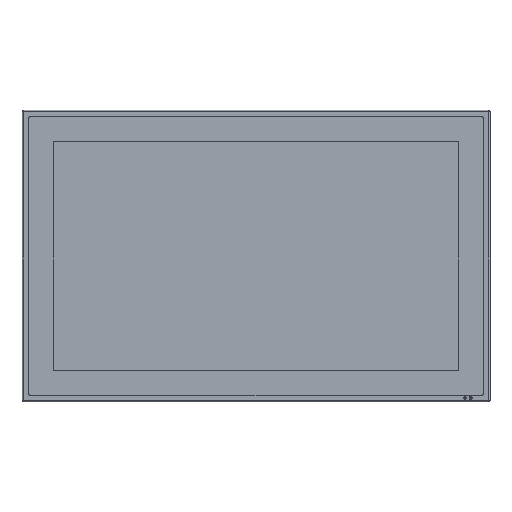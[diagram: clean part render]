
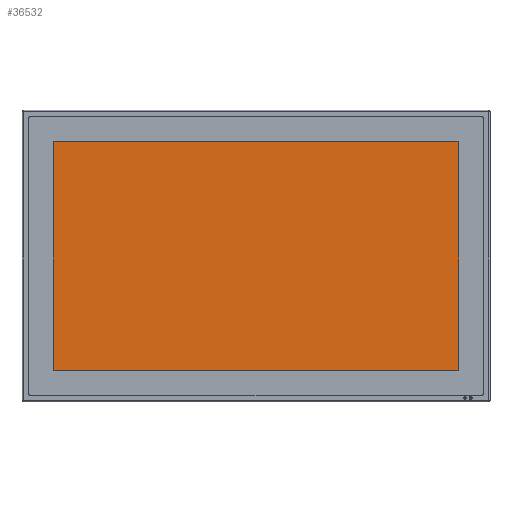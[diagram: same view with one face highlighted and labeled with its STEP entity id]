
A CAD part, top view. The second image highlights one B-rep face of the part: STEP entity #36532.
In plain terms, the highlighted planar face has unit normal (0, 0, 1).
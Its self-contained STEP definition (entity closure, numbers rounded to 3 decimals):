
#7862 = DIRECTION ( 'NONE',  ( 1., 0., 0. ) ) ;
#8792 = DIRECTION ( 'NONE',  ( 1., 0., 0. ) ) ;
#12174 = CARTESIAN_POINT ( 'NONE',  ( 172.716, 97.395, 0. ) ) ;
#19480 = FACE_OUTER_BOUND ( 'NONE', #187235, .T. ) ;
#34112 = ORIENTED_EDGE ( 'NONE', *, *, #213595, .T. ) ;
#36532 = ADVANCED_FACE ( 'NONE', ( #19480 ), #128087, .T. ) ;
#59048 = VECTOR ( 'NONE', #7862, 1000. ) ;
#65347 = AXIS2_PLACEMENT_3D ( 'NONE', #273650, #177759, #8792 ) ;
#78137 = EDGE_CURVE ( 'NONE', #109178, #124068, #295355, .T. ) ;
#79519 = CARTESIAN_POINT ( 'NONE',  ( -172.716, -97.395, 0. ) ) ;
#86041 = ORIENTED_EDGE ( 'NONE', *, *, #148844, .T. ) ;
#94452 = EDGE_CURVE ( 'NONE', #234353, #122185, #157325, .T. ) ;
#104674 = CARTESIAN_POINT ( 'NONE',  ( -172.716, 97.395, 0. ) ) ;
#109178 = VERTEX_POINT ( 'NONE', #136188 ) ;
#122185 = VERTEX_POINT ( 'NONE', #279941 ) ;
#124068 = VERTEX_POINT ( 'NONE', #104674 ) ;
#128087 = PLANE ( 'NONE',  #65347 ) ;
#132323 = LINE ( 'NONE', #203189, #162687 ) ;
#133248 = VECTOR ( 'NONE', #139875, 1000. ) ;
#136188 = CARTESIAN_POINT ( 'NONE',  ( 172.716, 97.395, 0. ) ) ;
#139875 = DIRECTION ( 'NONE',  ( -1., 0., 0. ) ) ;
#148844 = EDGE_CURVE ( 'NONE', #122185, #109178, #164989, .T. ) ;
#157325 = LINE ( 'NONE', #79519, #59048 ) ;
#162687 = VECTOR ( 'NONE', #228445, 1000. ) ;
#164989 = LINE ( 'NONE', #12174, #172515 ) ;
#172515 = VECTOR ( 'NONE', #249740, 1000. ) ;
#177759 = DIRECTION ( 'NONE',  ( 0., 0., 1. ) ) ;
#181039 = CARTESIAN_POINT ( 'NONE',  ( -172.716, -97.395, 0. ) ) ;
#187235 = EDGE_LOOP ( 'NONE', ( #34112, #264458, #86041, #295572 ) ) ;
#203189 = CARTESIAN_POINT ( 'NONE',  ( -172.716, 97.395, 0. ) ) ;
#212753 = CARTESIAN_POINT ( 'NONE',  ( -172.716, 97.395, 0. ) ) ;
#213595 = EDGE_CURVE ( 'NONE', #124068, #234353, #132323, .T. ) ;
#228445 = DIRECTION ( 'NONE',  ( 0., -1., 0. ) ) ;
#234353 = VERTEX_POINT ( 'NONE', #181039 ) ;
#249740 = DIRECTION ( 'NONE',  ( 0., 1., 0. ) ) ;
#264458 = ORIENTED_EDGE ( 'NONE', *, *, #94452, .T. ) ;
#273650 = CARTESIAN_POINT ( 'NONE',  ( 0., 0., 0. ) ) ;
#279941 = CARTESIAN_POINT ( 'NONE',  ( 172.716, -97.395, 0. ) ) ;
#295355 = LINE ( 'NONE', #212753, #133248 ) ;
#295572 = ORIENTED_EDGE ( 'NONE', *, *, #78137, .T. ) ;
